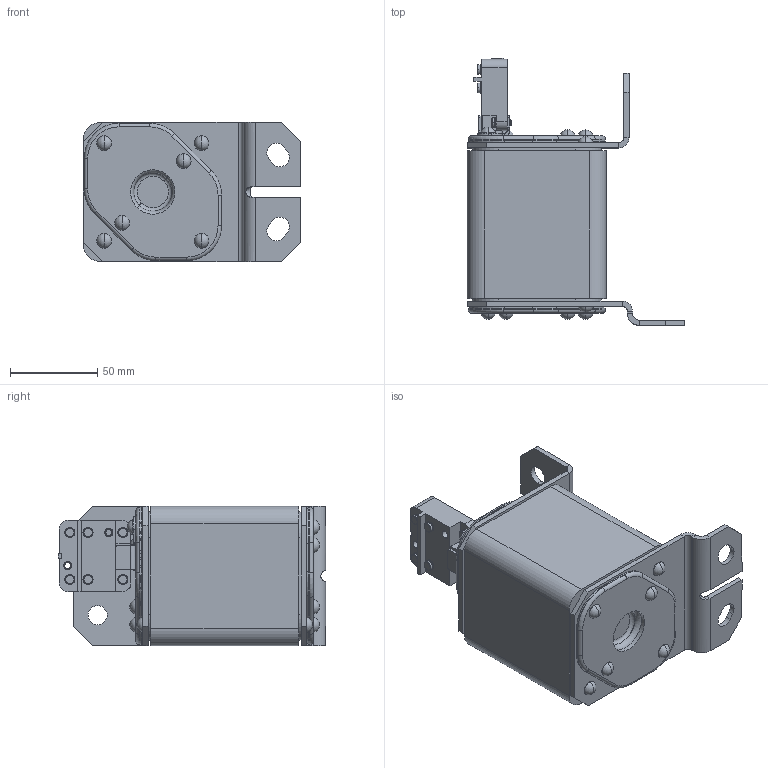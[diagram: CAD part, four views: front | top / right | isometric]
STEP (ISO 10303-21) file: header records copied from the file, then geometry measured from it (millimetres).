
FILE_DESCRIPTION (( 'STEP AP214' ), '1' );
FILE_NAME ('Ïðåäîõðàíèòåëü ÏÏ57-3998Ê1-XXXA-XXXX-ÊÝÀÇ.STEP', '2023-05-16T11:56:36', ( '' ), ( '' ), 'SwSTEP 2.0', 'SolidWorks 2018', '' );
FILE_SCHEMA (( 'AUTOMOTIVE_DESIGN' ));
Length unit declared in the file: millimetre
Products named in the file (1): Ïðåäîõðàíèòåëü ÏÏ57-3998Ê1-XXXA-XXXX-ÊÝÀÇ
Bounding box: 125 x 153.5 x 80 mm (x, y, z)
Volume: 658615.3 mm3; surface area: 85410.7 mm2
Topology: 1 solids, 26 shells, 905 faces, 2135 edges, 1329 vertices
Faces by surface type: plane 405, cylinder 339, torus 94, cone 42, sphere 24, bspline 1
Entity records: 36880 total; most frequent: CARTESIAN_POINT 5234, DIRECTION 4890, ORIENTED_EDGE 4270, EDGE_CURVE 2135, AXIS2_PLACEMENT_3D 1908, VERTEX_POINT 1329, LINE 1074, VECTOR 1074
